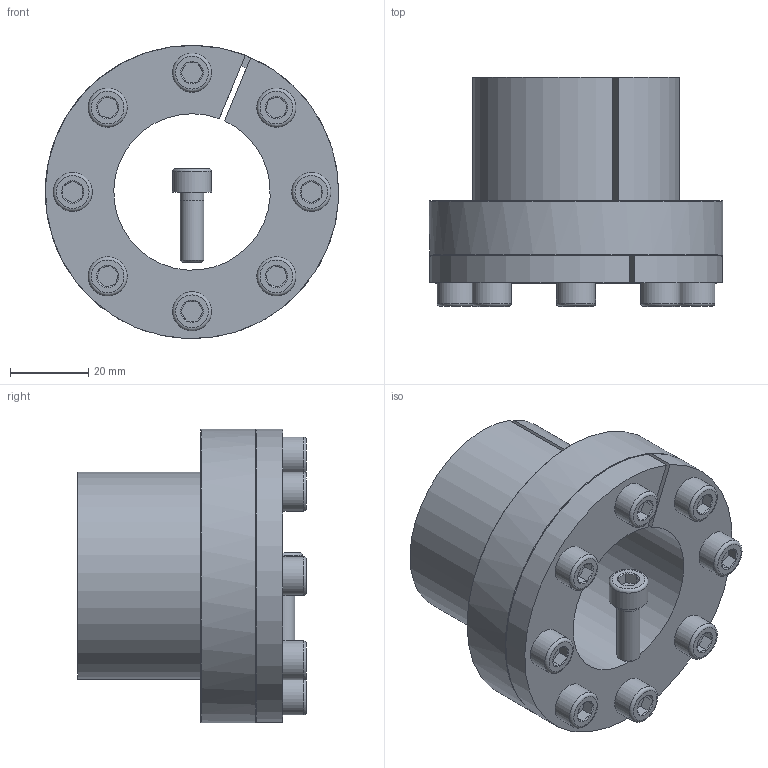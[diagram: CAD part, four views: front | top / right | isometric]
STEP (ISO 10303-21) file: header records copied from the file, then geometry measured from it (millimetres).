
FILE_DESCRIPTION( ( 'Unknown' ), '1' );
FILE_NAME( 'C:/Dokumente und Einstellungen/Sven/Desktop/homepage/cad - homepage/KBS80/KBS 80 - 40 x 53.stp', 'Unknown', ( 'Unknown' ), ( 'Unknown' ), 'XStep 1.0', 'Unknown', ' ' );
FILE_SCHEMA( ( 'automotive_design' ) );
Length unit declared in the file: millimetre
Products named in the file (10): Assem1; KBS 80 - 40 x 53; ISO EN DIN 4762 M6x18; ISO EN DIN 4762 M6x18-oa0; ISO EN DIN 4762 M6x18-oa1; ISO EN DIN 4762 M6x18-oa2; ISO EN DIN 4762 M6x18-oa3; ISO EN DIN 4762 M6x18-oa4; ISO EN DIN 4762 M6x18-oa5; ISO EN DIN 4762 M6x18-oa6
Bounding box: 75 x 58.5 x 75 mm (x, y, z)
Volume: 195429 mm3; surface area: 65333.5 mm2
Topology: 18 solids, 18 shells, 456 faces, 854 edges, 496 vertices
Faces by surface type: plane 208, cone 126, cylinder 90, torus 32
Full cylindrical faces by diameter (mm): 5 x16, 6 x48, 10 x16, 75 x2
Entity records: 5767 total; most frequent: CARTESIAN_POINT 1201, DIRECTION 932, ORIENTED_EDGE 682, AXIS2_PLACEMENT_3D 409, EDGE_LOOP 345, EDGE_CURVE 341, FACE_OUTER_BOUND 285, VERTEX_POINT 230
